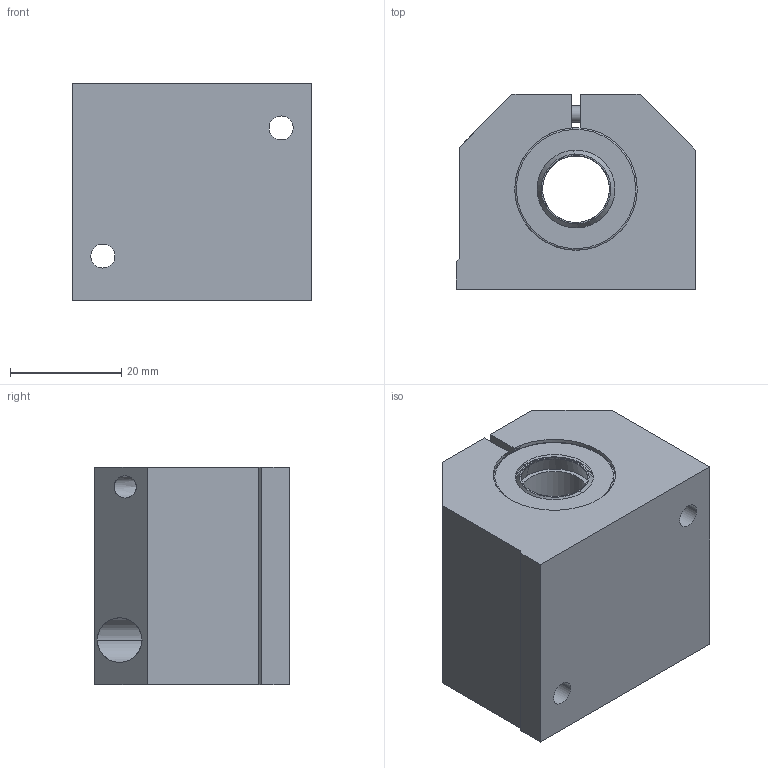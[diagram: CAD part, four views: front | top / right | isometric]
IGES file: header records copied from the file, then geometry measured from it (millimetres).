
Start section: 3D InterOp IGES (Version 21 0 1), Spatial Corp. Copyright (c) 1999-2007.
Global section: file name: SLS-12.igs; native system: Spatial Corp.; preprocessor: 3D InterOp GENERIC/IGES 3.0; author: Noname; organization: Noname; date: 20220309.161140; units: millimetre
Bounding box: 43 x 35 x 39 mm (x, y, z)
Surface area: 13600.3 mm2 (no closed solid volume)
Topology: 0 solids, 0 shells, 130 faces, 626 edges, 616 vertices
Faces by surface type: revolution 89, extrusion 41
